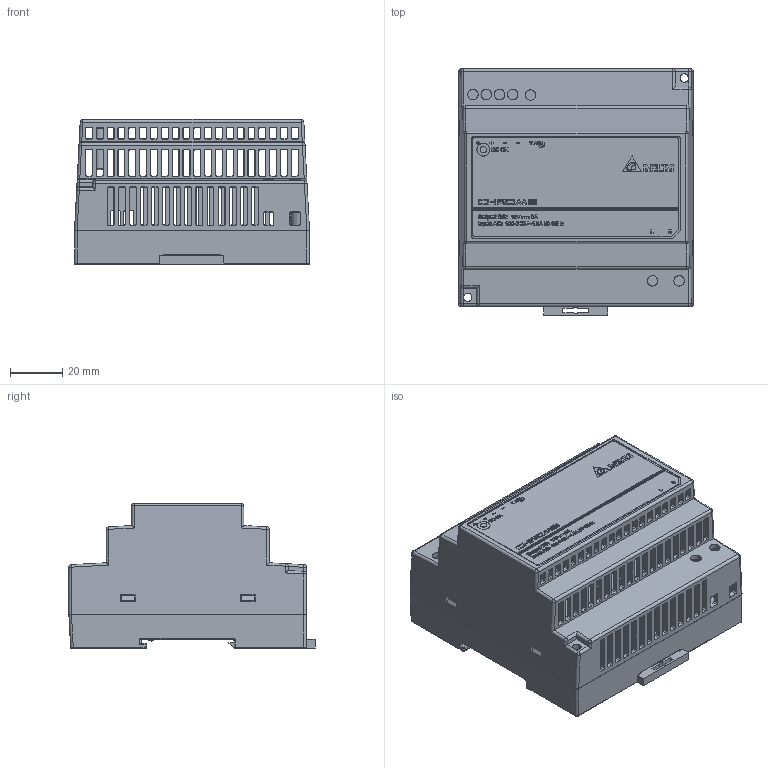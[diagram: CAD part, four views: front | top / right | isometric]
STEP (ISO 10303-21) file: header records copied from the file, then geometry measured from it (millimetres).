
FILE_DESCRIPTION((''),'2;1');
FILE_NAME('DRC-12V100W1AZ_ASM','2016-11-22T',('Anothai'),(''),'PRO/ENGINEER BY PARAMETRIC TECHNOLOGY CORPORATION, 2010180','PRO/ENGINEER BY PARAMETRIC TECHNOLOGY CORPORATION, 2010180','');
FILE_SCHEMA(('CONFIG_CONTROL_DESIGN','SHAPE_APPEARANCE_LAYERS_GROUPS'));
Products named in the file (7): 330_CHASSIS_8; 330_UPDATE_53; 3421026502_1_1; LENS_1; 100W_ASM_12_ASM; 3268670300; DRC-12V100W1AZ_ASM
Assembly tree (6 placements, depth 3):
  DRC-12V100W1AZ_ASM
    100W_ASM_12_ASM
      330_CHASSIS_8
      330_UPDATE_53
      3421026502_1_1
      LENS_1
    3268670300
Bounding box: 90 x 94.3 x 55.6 mm (x, y, z)
Volume: 62873.2 mm3; surface area: 77284.7 mm2
Topology: 5 solids, 5 shells, 2770 faces, 7697 edges, 4975 vertices
Faces by surface type: plane 1423, cylinder 788, extrusion 378, sphere 62, cone 58, bspline 52, torus 9
Entity records: 111267 total; most frequent: CARTESIAN_POINT 29322, ORIENTED_EDGE 15270, DIRECTION 11330, EDGE_CURVE 7635, VECTOR 5382, LINE 5004, VERTEX_POINT 4975, PRESENTATION_STYLE_ASSIGNMENT 4721
